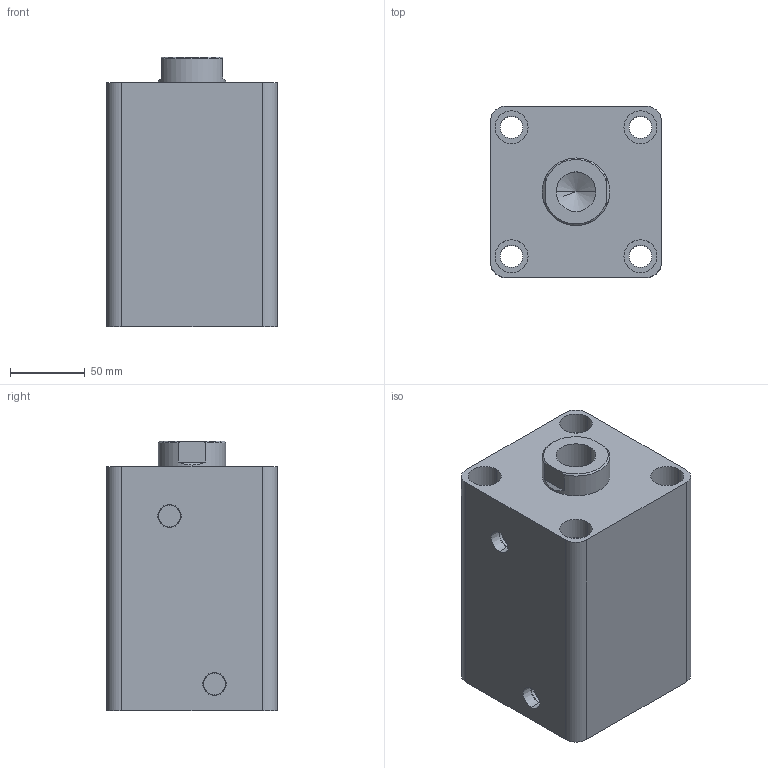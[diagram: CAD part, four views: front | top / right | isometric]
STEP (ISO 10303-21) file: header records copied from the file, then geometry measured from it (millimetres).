
FILE_DESCRIPTION (( 'STEP AP203' ), '1' );
FILE_NAME ('HTB-SD80-85N.STEP', '2019-10-07T08:37:13', ( '微软用户' ), ( '微软中国' ), 'SwSTEP 2.0', 'SolidWorks 2012', '' );
FILE_SCHEMA (( 'CONFIG_CONTROL_DESIGN' ));
Length unit declared in the file: millimetre
Products named in the file (3): HTB-SD80-85N; HTB-SD80-85N活塞杆; HTB-SD80-85掛极
Assembly tree (2 placements, depth 2):
  HTB-SD80-85N
    HTB-SD80-85掛极
    HTB-SD80-85N活塞杆
Bounding box: 114 x 114 x 180 mm (x, y, z)
Volume: 1674422.2 mm3; surface area: 210244.2 mm2
Topology: 2 solids, 2 shells, 83 faces, 184 edges, 119 vertices
Faces by surface type: cylinder 42, plane 27, cone 8, torus 6
Entity records: 2655 total; most frequent: DIRECTION 456, CARTESIAN_POINT 417, ORIENTED_EDGE 364, AXIS2_PLACEMENT_3D 194, EDGE_CURVE 182, VERTEX_POINT 119, EDGE_LOOP 107, CIRCLE 106
